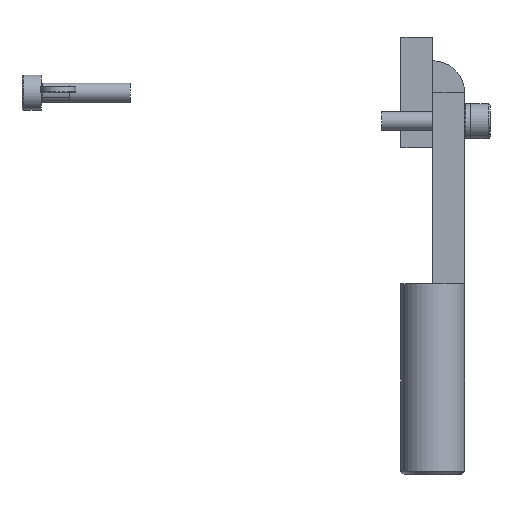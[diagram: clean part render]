
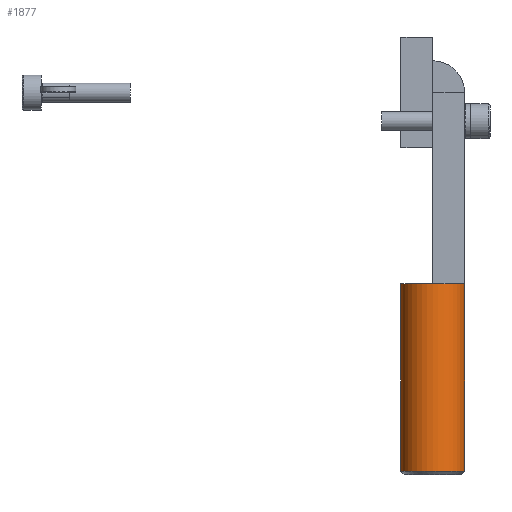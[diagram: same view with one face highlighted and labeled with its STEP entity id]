
A CAD part, front view. The second image highlights one B-rep face of the part: STEP entity #1877.
In plain terms, the highlighted cylindrical face has radius 5 mm (diameter 10 mm), a full revolution.
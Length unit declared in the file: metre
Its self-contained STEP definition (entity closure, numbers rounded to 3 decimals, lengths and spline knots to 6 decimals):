
#1877 = ADVANCED_FACE( '', ( #4073, #4074 ), #4075, .T. );
#4073 = FACE_OUTER_BOUND( '', #5030, .T. );
#4074 = FACE_OUTER_BOUND( '', #5031, .T. );
#4075 = CYLINDRICAL_SURFACE( '', #5032, 0.005 );
#5030 = EDGE_LOOP( '', ( #6512 ) );
#5031 = EDGE_LOOP( '', ( #6513, #6514, #6515 ) );
#5032 = AXIS2_PLACEMENT_3D( '', #6516, #6517, #6518 );
#6512 = ORIENTED_EDGE( '', *, *, #8532, .T. );
#6513 = ORIENTED_EDGE( '', *, *, #8547, .F. );
#6514 = ORIENTED_EDGE( '', *, *, #8548, .F. );
#6515 = ORIENTED_EDGE( '', *, *, #8549, .F. );
#6516 = CARTESIAN_POINT( '', ( 0.005, 0.03, 0. ) );
#6517 = DIRECTION( '', ( 0., -1., 0. ) );
#6518 = DIRECTION( '', ( 0., 0., 1. ) );
#8532 = EDGE_CURVE( '', #9663, #9663, #9664, .F. );
#8547 = EDGE_CURVE( '', #9685, #9681, #9688, .T. );
#8548 = EDGE_CURVE( '', #9654, #9685, #9689, .T. );
#8549 = EDGE_CURVE( '', #9681, #9654, #9690, .T. );
#9654 = VERTEX_POINT( '', #9744 );
#9663 = VERTEX_POINT( '', #9755 );
#9664 = CIRCLE( '', #9756, 0.005 );
#9681 = VERTEX_POINT( '', #9778 );
#9685 = VERTEX_POINT( '', #9784 );
#9688 = CIRCLE( '', #9789, 0.005 );
#9689 = CIRCLE( '', #9790, 0.005 );
#9690 = CIRCLE( '', #9791, 0.005 );
#9744 = CARTESIAN_POINT( '', ( 0., 0.03, 0. ) );
#9755 = CARTESIAN_POINT( '', ( 0.005, 0.0595, 0.005 ) );
#9756 = AXIS2_PLACEMENT_3D( '', #9868, #9869, #9870 );
#9778 = CARTESIAN_POINT( '', ( 0.005, 0.03, 0.005 ) );
#9784 = CARTESIAN_POINT( '', ( 0.005, 0.03, -0.005 ) );
#9789 = AXIS2_PLACEMENT_3D( '', #9892, #9893, #9894 );
#9790 = AXIS2_PLACEMENT_3D( '', #9895, #9896, #9897 );
#9791 = AXIS2_PLACEMENT_3D( '', #9898, #9899, #9900 );
#9868 = CARTESIAN_POINT( '', ( 0.005, 0.0595, 0. ) );
#9869 = DIRECTION( '', ( 0., 1., 0. ) );
#9870 = DIRECTION( '', ( 0., 0., 1. ) );
#9892 = CARTESIAN_POINT( '', ( 0.005, 0.03, 0. ) );
#9893 = DIRECTION( '', ( 0., -1., 0. ) );
#9894 = DIRECTION( '', ( 0., 0., -1. ) );
#9895 = CARTESIAN_POINT( '', ( 0.005, 0.03, 0. ) );
#9896 = DIRECTION( '', ( 0., -1., 0. ) );
#9897 = DIRECTION( '', ( 0., 0., -1. ) );
#9898 = CARTESIAN_POINT( '', ( 0.005, 0.03, 0. ) );
#9899 = DIRECTION( '', ( 0., -1., 0. ) );
#9900 = DIRECTION( '', ( 0., 0., -1. ) );
